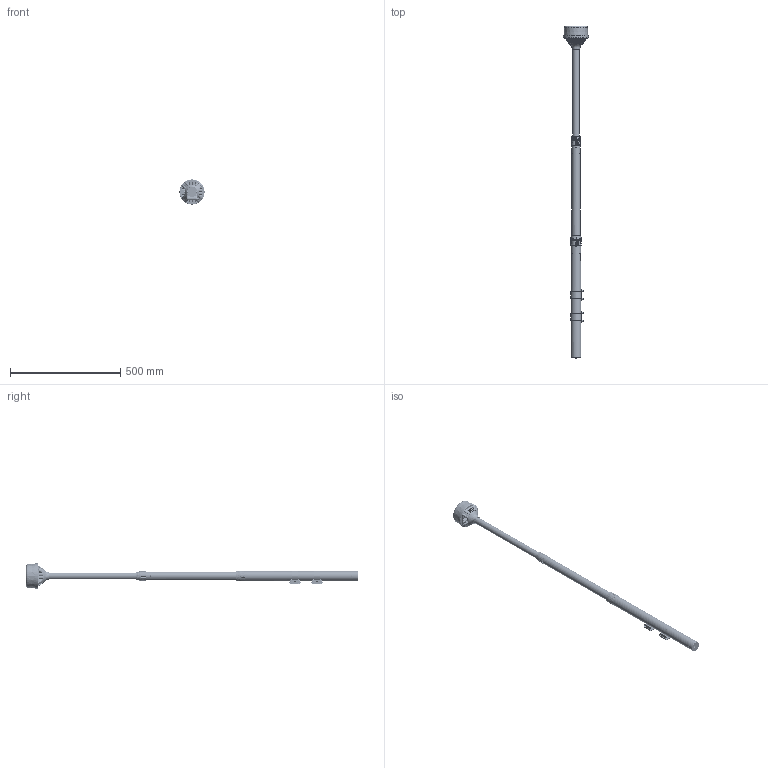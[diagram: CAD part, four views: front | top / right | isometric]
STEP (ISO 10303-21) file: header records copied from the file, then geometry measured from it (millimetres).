
FILE_DESCRIPTION((''),'2;1');
FILE_NAME('ZHIJIA_ASM','2020-09-11T14:08:07',('Administrator'),(''),'CREO PARAMETRIC BY PTC INC, 2018260','CREO PARAMETRIC BY PTC INC, 2018260','');
FILE_SCHEMA(('CONFIG_CONTROL_DESIGN'));
Products named in the file (23): GAN1_F; GAN2_F; GAN3_F; JIETOU1_F; FANGTIAO_F; LVP_F; SL_F; YNLS_F; LS-2_F; LVPZ_F_ASM; F1_F; M6-LM_F; ZHIZHUANLM-M6_F; JIETOU2_F; F2_F; FANGTIAO2_F; ZAOXZHIJIA_F; LS-M4-16_F; KAKOU_F; 28_F; 23-2354_F; C12-LAO_F_ASM; ZHIJIA_ASM
Assembly tree (33 placements, depth 3):
  ZHIJIA_ASM
    GAN1_F
    GAN2_F
    GAN3_F
    JIETOU1_F
    FANGTIAO_F  x2
    LVPZ_F_ASM  x2
      LVP_F
      SL_F
      YNLS_F
      LS-2_F
    F1_F
    M6-LM_F  x2
    ZHIZHUANLM-M6_F  x4
    JIETOU2_F
    F2_F
    FANGTIAO2_F  x2
    ZAOXZHIJIA_F
    LS-M4-16_F  x3
    KAKOU_F
    C12-LAO_F_ASM
      28_F
      23-2354_F
Bounding box: 114.22 x 1507.7 x 114.22 mm (x, y, z)
Volume: 500512.7 mm3; surface area: 670062.2 mm2
Topology: 36 solids, 42 shells, 7551 faces, 19048 edges, 11488 vertices
Faces by surface type: plane 2608, bspline 1890, cylinder 1521, cone 616, torus 498, sphere 275, extrusion 131, revolution 12
Entity records: 370628 total; most frequent: CARTESIAN_POINT 240481, ORIENTED_EDGE 30864, DIRECTION 21380, EDGE_CURVE 15436, VERTEX_POINT 9509, AXIS2_PLACEMENT_3D 7915, B_SPLINE_CURVE_WITH_KNOTS 6571, EDGE_LOOP 6213
